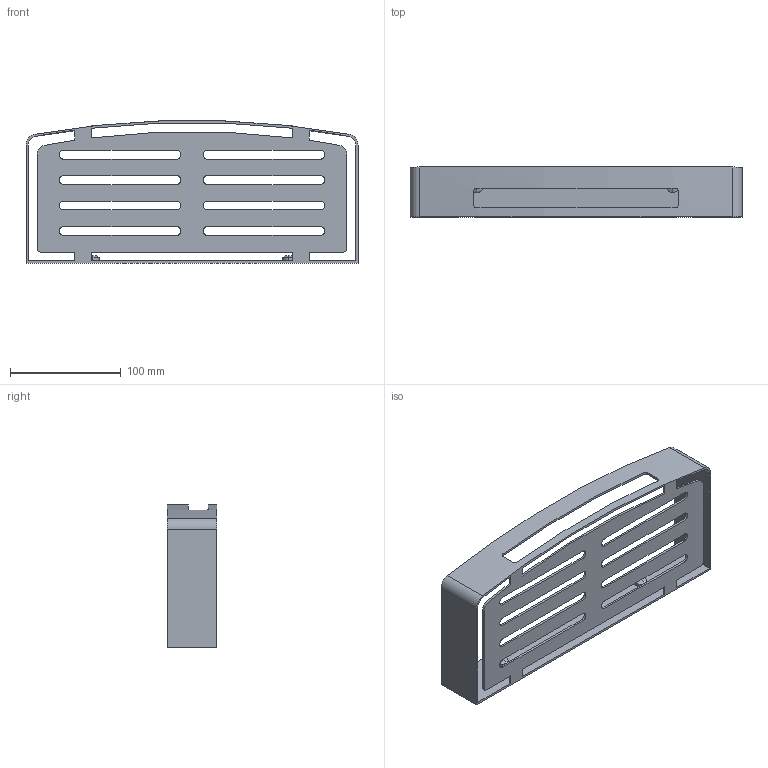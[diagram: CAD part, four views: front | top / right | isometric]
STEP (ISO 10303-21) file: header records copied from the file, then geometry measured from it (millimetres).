
FILE_DESCRIPTION (( 'STEP AP214' ), '1' );
FILE_NAME ('UN10331# - U.STEP', '2025-10-22T13:58:57', ( '' ), ( '' ), 'SwSTEP 2.0', 'SolidWorks 2022', '' );
FILE_SCHEMA (( 'AUTOMOTIVE_DESIGN' ));
Length unit declared in the file: millimetre
Products named in the file (1): UN10331# - U
Bounding box: 300 x 45 x 128.5 mm (x, y, z)
Volume: 113370.9 mm3; surface area: 121965.1 mm2
Topology: 1 solids, 1 shells, 91 faces, 272 edges, 178 vertices
Faces by surface type: cylinder 45, plane 42, bspline 4
Entity records: 4333 total; most frequent: CARTESIAN_POINT 756, ORIENTED_EDGE 536, DIRECTION 530, EDGE_CURVE 268, AXIS2_PLACEMENT_3D 182, VERTEX_POINT 178, LINE 166, VECTOR 166
